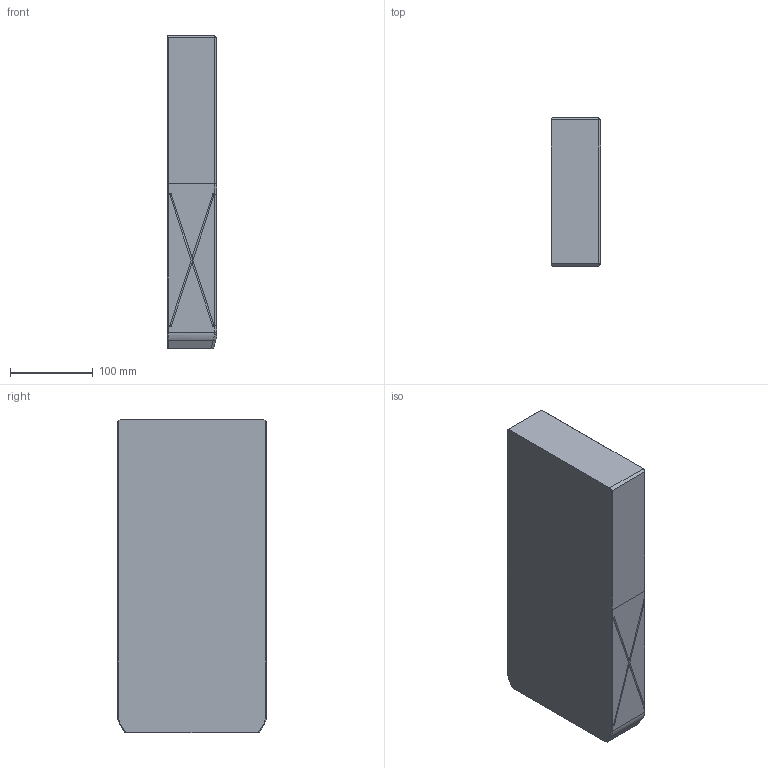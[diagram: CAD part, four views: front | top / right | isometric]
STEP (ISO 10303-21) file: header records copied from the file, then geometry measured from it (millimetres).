
FILE_DESCRIPTION((''),'2;1');
FILE_NAME('','2010-08-30T17:58:09+09:00',('misumi'),(''),'M/STEP i/f 1R2-14','CADmeister v5.1','');
FILE_SCHEMA(('AUTOMOTIVE_DESIGN'));
Length unit declared in the file: millimetre
Products named in the file (1): GW180-200-380
Bounding box: 60 x 180 x 380 mm (x, y, z)
Volume: 4080487.5 mm3; surface area: 202379.7 mm2
Topology: 1 solids, 1 shells, 74 faces, 199 edges, 117 vertices
Faces by surface type: plane 37, cylinder 17, revolution 12, bspline 6, cone 2
Entity records: 3487 total; most frequent: CARTESIAN_POINT 817, ORIENTED_EDGE 374, DIRECTION 353, COLOUR_RGB 202, CURVE_STYLE 195, PRESENTATION_STYLE_ASSIGNMENT 194, OVER_RIDING_STYLED_ITEM 193, EDGE_CURVE 187
